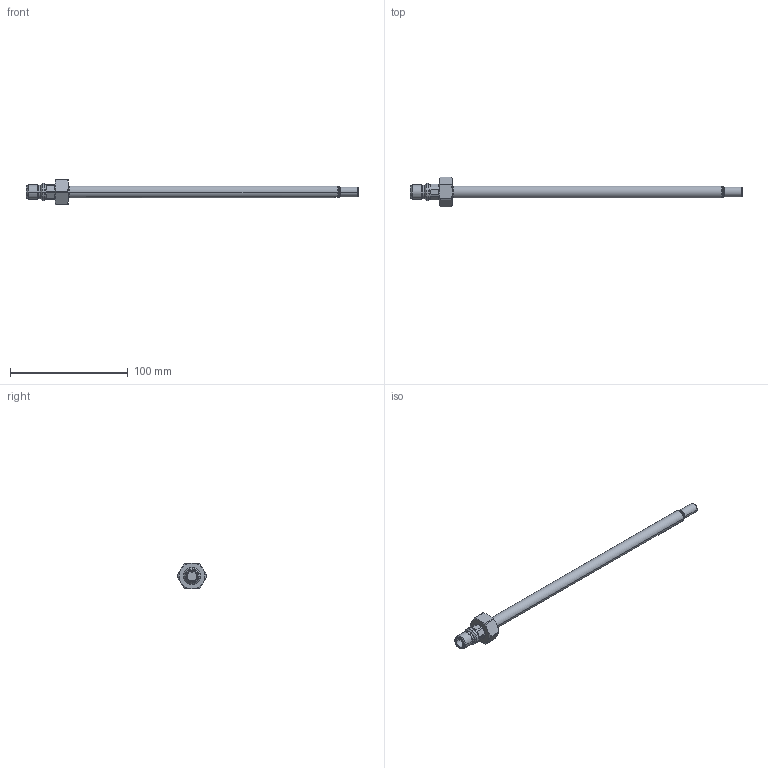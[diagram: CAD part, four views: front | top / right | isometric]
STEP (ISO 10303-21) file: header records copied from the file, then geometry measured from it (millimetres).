
FILE_DESCRIPTION( ( '' ), '1' );
FILE_NAME( '//expscmdclustefs.cadenas.external/client_exchange/iodir/jobs/output/wkb52000721_no0/STEP/SF5704_2_03.stp', '2012-12-05T13:30:43', ( '' ), ( '' ), ' ', ' ', ' ' );
FILE_SCHEMA( ( 'CONFIG_CONTROL_DESIGN' ) );
Length unit declared in the file: millimetre
Products named in the file (1): 1
Bounding box: 282 x 25 x 22 mm (x, y, z)
Volume: 25392 mm3; surface area: 11274.3 mm2
Topology: 1 solids, 1 shells, 137 faces, 336 edges, 214 vertices
Faces by surface type: cylinder 38, plane 37, cone 36, torus 26
Entity records: 4167 total; most frequent: DIRECTION 793, CARTESIAN_POINT 772, ORIENTED_EDGE 672, AXIS2_PLACEMENT_3D 346, EDGE_CURVE 336, VERTEX_POINT 214, CIRCLE 207, EDGE_LOOP 150
